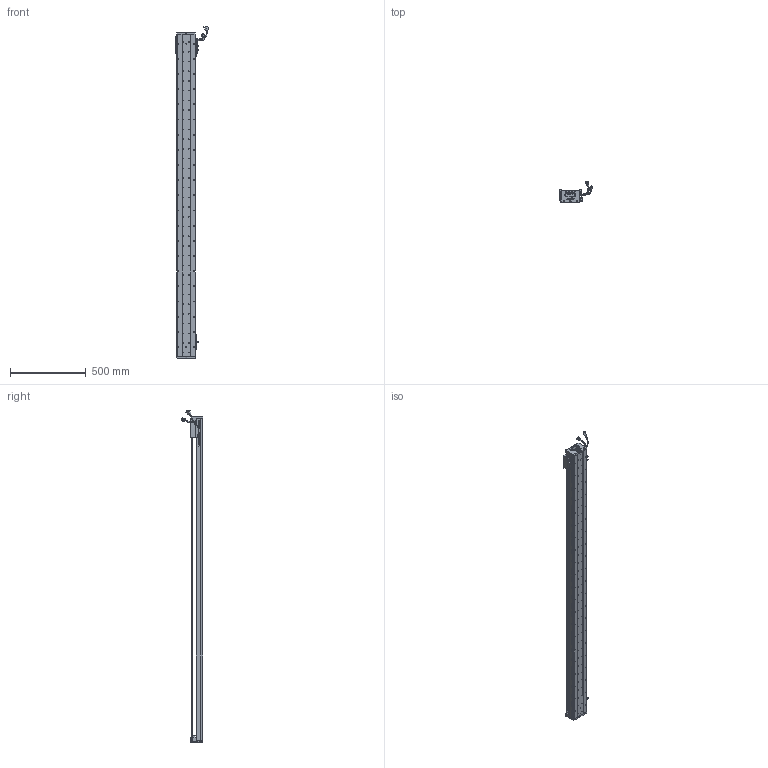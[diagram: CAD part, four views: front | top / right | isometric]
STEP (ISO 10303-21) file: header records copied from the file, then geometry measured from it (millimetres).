
FILE_DESCRIPTION (( 'STEP AP203' ), '1' );
FILE_NAME ('Z1-RY120D-1-L500-B-K.SLDASM_1950.step', '2021-05-17T03:49:46', ( '盈信电脑' ), ( '东莞市道滘镇水果街19号' ), 'SwSTEP 2.0', 'SolidWorks 2016', '' );
FILE_SCHEMA (( 'CONFIG_CONTROL_DESIGN' ));
Length unit declared in the file: millimetre
Products named in the file (37): PBU_SHEET; SEAL; 672嫖萇羲壽假蚾釱; SCREW-M1.6-2; LABEL-Part-1; SCREW-M1.6-1; Z1-RY120D-1-L500-B-K.SLDASM_1950; SCREW-M1.6; HOLDER0; SCREW-M1.6-3; Z1-RY120-500-倰第菁釱_1950; SCREW-M1.7-1; 120-Z-臏賑輸盄裔(21遴); PSLH080_PSLF2; SHIELDPLATE; Z1-RY120-L500詩湍100mm遵_1950; SCALE-Part-1; HARNESS-Part-1; 榋妏寠巭燃_暯_M2_2; Z-RY120D詩湍狟揤裔; Z1-RY120铝滑块（21款）; COVER-Part-1; 140蚥薯蝶輸; COVER; SCALE-Part-2; HARNESS; LABEL; SCREW-M1.7; SEAL-Part-1; 覜茼ん672; 080黍杅芛假蚾釱21遴; RY100FB-遵嫖萇覜茼え; 140雄赽晤鎢ん堤盄; HARNESS-Part-2; Z-120詩湍傷裔啣; Z-RY120D詩湍奻揤裔; SCALE
Assembly tree (43 placements, depth 4):
  Z1-RY120D-1-L500-B-K.SLDASM_1950
    Z1-RY120-500-倰第菁釱_1950
    覜茼ん672  x3
    672嫖萇羲壽假蚾釱  x2
    Z1-RY120铝滑块（21款）
    PSLH080_PSLF2
      SCALE
        SCALE-Part-1
        SCALE-Part-2
      HARNESS
        HARNESS-Part-1
        HARNESS-Part-2
      LABEL
        LABEL-Part-1
      COVER
        COVER-Part-1
      SEAL
        SEAL-Part-1
      榋妏寠巭燃_暯_M2_2
      SHIELDPLATE
      SCREW-M1.7
      SCREW-M1.7-1
      PBU_SHEET
      SCREW-M1.6
      SCREW-M1.6-1
      SCREW-M1.6-2
      SCREW-M1.6-3
      HOLDER0
    080黍杅芛假蚾釱21遴
    120-Z-臏賑輸盄裔(21遴)
    140雄赽晤鎢ん堤盄
    140蚥薯蝶輸  x2
    RY100FB-遵嫖萇覜茼え
    Z-120詩湍傷裔啣  x2
    Z-RY120D詩湍奻揤裔  x2
    Z-RY120D詩湍狟揤裔  x2
    Z1-RY120-L500詩湍100mm遵_1950
Bounding box: 222.88 x 140.94 x 2188.99 mm (x, y, z)
Volume: 4965084.3 mm3; surface area: 1776369.9 mm2
Topology: 38 solids, 38 shells, 3341 faces, 9416 edges, 5946 vertices
Faces by surface type: cylinder 1682, plane 1199, cone 338, torus 69, bspline 53
Entity records: 109363 total; most frequent: CARTESIAN_POINT 32740, ORIENTED_EDGE 15680, DIRECTION 14524, EDGE_CURVE 7840, AXIS2_PLACEMENT_3D 5336, VERTEX_POINT 5066, LINE 3852, VECTOR 3852
